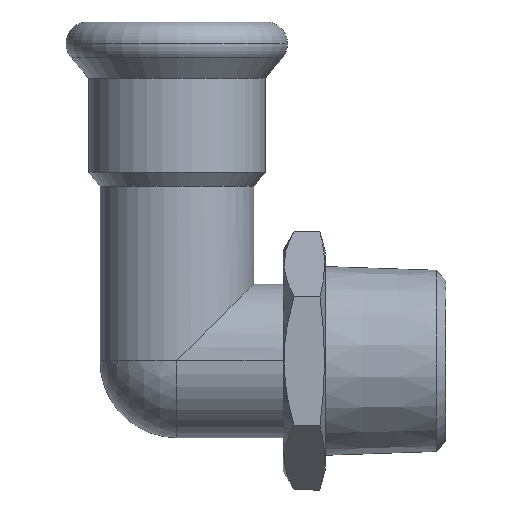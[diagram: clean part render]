
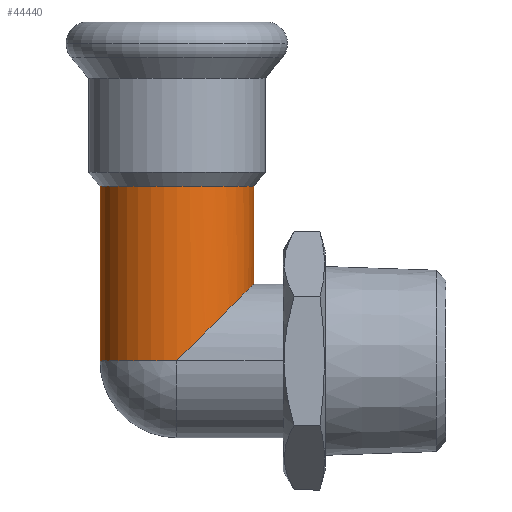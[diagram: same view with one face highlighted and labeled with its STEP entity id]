
A CAD part, front view. The second image highlights one B-rep face of the part: STEP entity #44440.
In plain terms, the highlighted cylindrical face has radius 11 mm (diameter 22 mm), a partial arc.
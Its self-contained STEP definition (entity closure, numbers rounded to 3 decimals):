
#2120=CARTESIAN_POINT('',(-308.291,41.435,0.));
#2130=VERTEX_POINT('',#2120);
#2210=CARTESIAN_POINT('',(-330.291,41.435,
0.));
#2220=VERTEX_POINT('',#2210);
#2250=CARTESIAN_POINT('',(-319.291,41.435,0.));
#2260=DIRECTION('',(0.,1.,0.));
#2270=DIRECTION('',(1.,0.,0.));
#2280=AXIS2_PLACEMENT_3D('',#2250,#2260,#2270);
#2290=CIRCLE('',#2280,11.);
#15150=CARTESIAN_POINT('',(-319.291,41.435,0.));
#15160=DIRECTION('',(0.,1.,0.));
#15170=DIRECTION('',(-1.,0.,0.));
#15180=AXIS2_PLACEMENT_3D('',#15150,#15160,#15170);
#15190=CYLINDRICAL_SURFACE('',#15180,11.);
#15200=CARTESIAN_POINT('',(-319.291,16.435,
0.));
#15210=DIRECTION('',(-0.707,0.707,
0.));
#15220=DIRECTION('',(0.707,0.707,
0.));
#15230=AXIS2_PLACEMENT_3D('',#15200,#15210,#15220);
#15240=ELLIPSE('',#15230,15.556,11.);
#15250=CARTESIAN_POINT('',(-308.291,27.435,
0.));
#15260=VERTEX_POINT('',#15250);
#15310=CARTESIAN_POINT('',(-308.291,41.435,
0.));
#15320=DIRECTION('',(0.,1.,0.));
#15330=VECTOR('',#15320,1.);
#15340=LINE('',#15310,#15330);
#15350=EDGE_CURVE('',#15260,#2130,#15340,.T.);
#15380=CARTESIAN_POINT('',(-330.291,41.435,0.));
#15390=DIRECTION('',(0.,1.,0.));
#15400=VECTOR('',#15390,1.);
#15410=LINE('',#15380,#15400);
#15420=CARTESIAN_POINT('',(-330.291,16.435,0.));
#15430=VERTEX_POINT('',#15420);
#15440=EDGE_CURVE('',#15430,#2220,#15410,.T.);
#15460=CARTESIAN_POINT('',(-319.291,16.435,0.));
#15470=DIRECTION('',(0.,1.,0.));
#15480=DIRECTION('',(-1.,0.,0.));
#15490=AXIS2_PLACEMENT_3D('',#15460,#15470,#15480);
#15500=CIRCLE('',#15490,11.);
#16060=CARTESIAN_POINT('',(-319.291,16.435,11.));
#16070=VERTEX_POINT('',#16060);
#16100=EDGE_CURVE('',#16070,#15260,#15240,.T.);
#43990=EDGE_CURVE('',#2220,#2130,#2290,.T.);
#44360=ORIENTED_EDGE('',*,*,#16100,.T.);
#44370=EDGE_CURVE('',#15430,#16070,#15500,.T.);
#44380=ORIENTED_EDGE('',*,*,#44370,.T.);
#44390=ORIENTED_EDGE('',*,*,#15440,.F.);
#44400=ORIENTED_EDGE('',*,*,#43990,.F.);
#44410=ORIENTED_EDGE('',*,*,#15350,.T.);
#44420=EDGE_LOOP('',(#44410,#44400,#44390,#44380,#44360));
#44430=FACE_OUTER_BOUND('',#44420,.T.);
#44440=ADVANCED_FACE('',(#44430),#15190,.T.);
